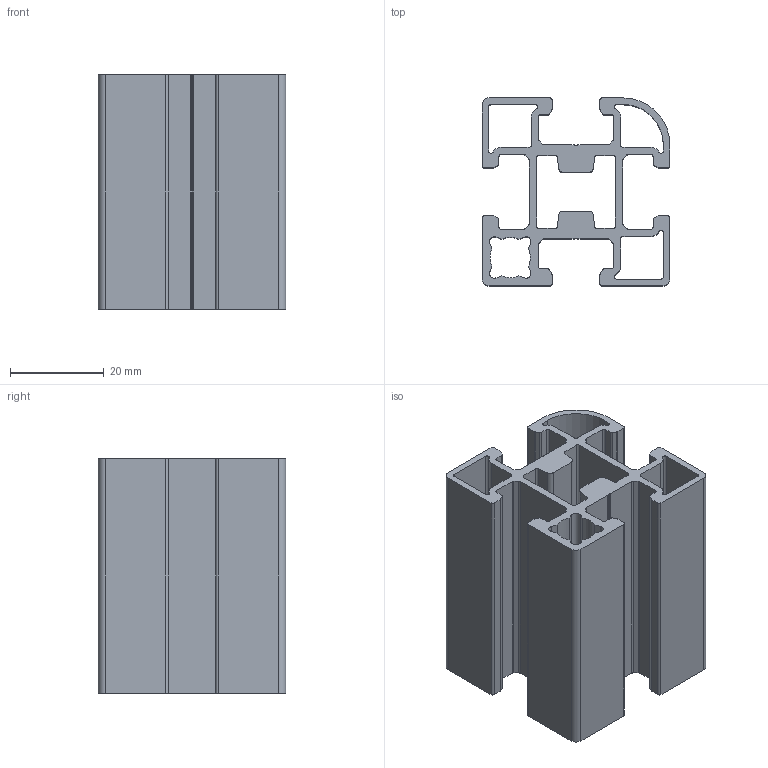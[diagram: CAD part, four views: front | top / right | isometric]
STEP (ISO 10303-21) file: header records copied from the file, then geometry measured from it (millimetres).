
FILE_DESCRIPTION(('STEP AP214'),'1');
FILE_NAME('F44R-.stp','2018-07-24T10:15:41',(' '),(' '),'Spatial InterOp 3D',' ',' ');
FILE_SCHEMA(('automotive_design'));
Length unit declared in the file: millimetre
Products named in the file (1): F44R-
Bounding box: 40 x 40 x 50 mm (x, y, z)
Volume: 25138.7 mm3; surface area: 25577.7 mm2
Topology: 1 solids, 1 shells, 188 faces, 558 edges, 372 vertices
Faces by surface type: cylinder 96, plane 92
Entity records: 7894 total; most frequent: DIRECTION 1128, CARTESIAN_POINT 1119, ORIENTED_EDGE 1116, EDGE_CURVE 558, AXIS2_PLACEMENT_3D 381, VERTEX_POINT 372, LINE 366, VECTOR 366
